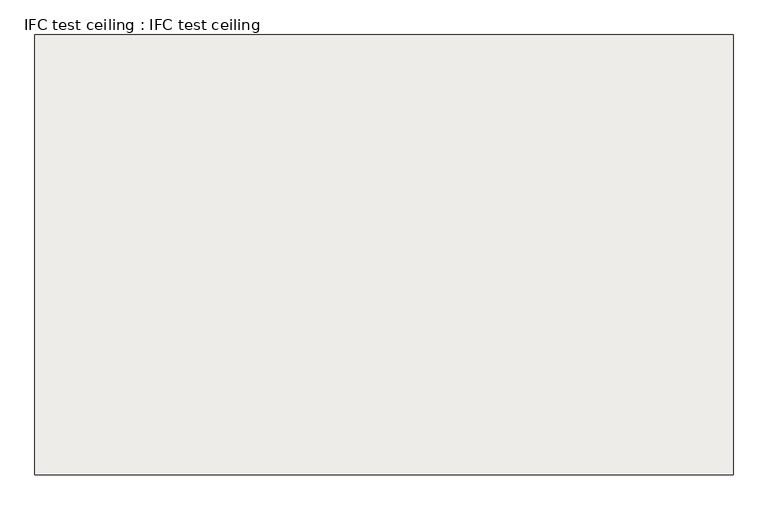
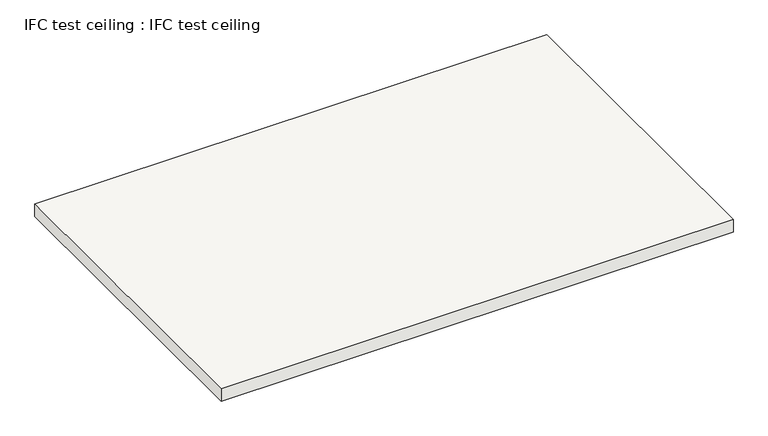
"""IFC4 building model written with IfcOpenShell, lengths in millimetres: covering geometry, IFC test ceiling : IFC test ceiling."""

from ifc_helpers import new_model, si_unit, origin, origin_with_axes, place, context, project, spatial, polyline, outline, extrude, source, transform, mapped, element, save


def ifc_test_ceiling_ifc_test_ceiling_0605c007(model_context):
    return source(origin(), model_context, "Body", "SweptSolid", [
        extrude(outline(polyline([(-2405.0537634, 835.8064516), (-12405.0537634, 835.8064516), (-12405.0537634, 7135.8064516), (-2405.0537634, 7135.8064516), (-2405.0537634, 835.8064516)])), origin_with_axes(), (0.0, 0.0, 1.0), 250.0),
    ])


if __name__ == "__main__":
    model = new_model("IFC4")
    model_context = context("Model", 3, world=origin())
    ifc_project = project(units=[si_unit("LENGTHUNIT", "METRE", prefix="MILLI")], contexts=[model_context])
    site = spatial("IfcSite", under=ifc_project)
    building = spatial("IfcBuilding", under=site)
    placement = place(None, origin())
    ifc_test_ceiling_ifc_test_ceiling_shape = ifc_test_ceiling_ifc_test_ceiling_0605c007(model_context)
    element("IfcCovering", 1, ObjectType="IFC test ceiling : IFC test ceiling", at=placement, inside=building, context=model_context, shape_type="MappedRepresentation", body=[
        mapped(ifc_test_ceiling_ifc_test_ceiling_shape, transform((0.0, 0.0, 0.0), x_axis=(1.0, 0.0, 0.0), y_axis=(0.0, 1.0, 0.0), z_axis=(0.0, 0.0, 1.0))),
    ])
    save(model, "model.ifc")
